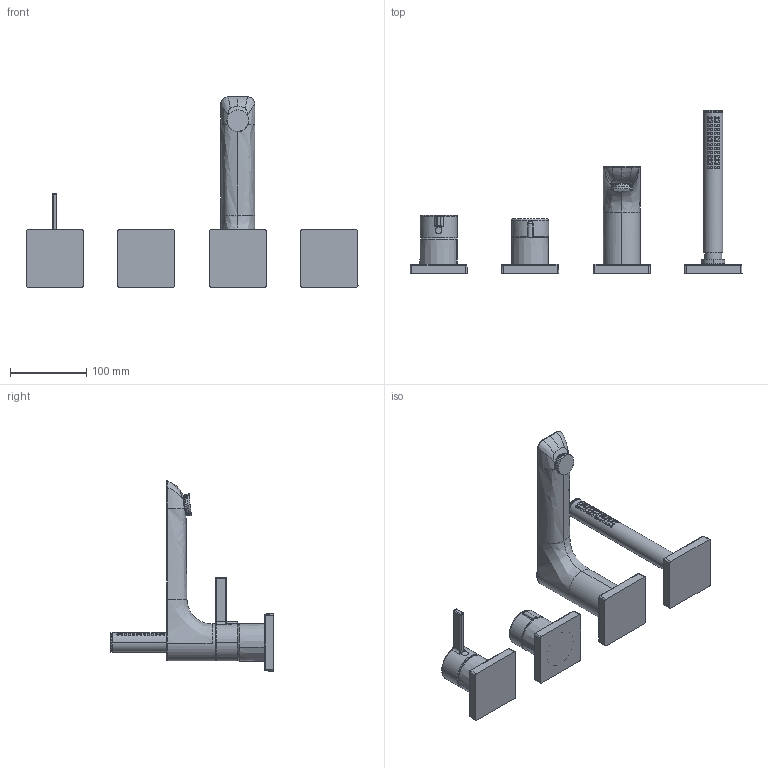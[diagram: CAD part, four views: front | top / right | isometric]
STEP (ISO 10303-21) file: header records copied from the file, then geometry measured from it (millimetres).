
FILE_DESCRIPTION (( 'STEP AP203' ), '1' );
FILE_NAME ('57752483(2023).STEP', '2024-11-27T14:16:16', ( '' ), ( '' ), 'SwSTEP 2.0', 'SolidWorks 2024', '' );
FILE_SCHEMA (( 'CONFIG_CONTROL_DESIGN' ));
Length unit declared in the file: millimetre
Products named in the file (1): 57752483(2023)
Bounding box: 435 x 213.8 x 249.21 mm (x, y, z)
Volume: 1091932.6 mm3; surface area: 168341.9 mm2
Topology: 13 solids, 13 shells, 291 faces, 630 edges, 421 vertices
Faces by surface type: bspline 129, cylinder 75, plane 52, cone 16, torus 16, sphere 3
Entity records: 25461 total; most frequent: CARTESIAN_POINT 19872, ORIENTED_EDGE 1248, DIRECTION 836, EDGE_CURVE 624, VERTEX_POINT 421, EDGE_LOOP 355, AXIS2_PLACEMENT_3D 341, ADVANCED_FACE 291
